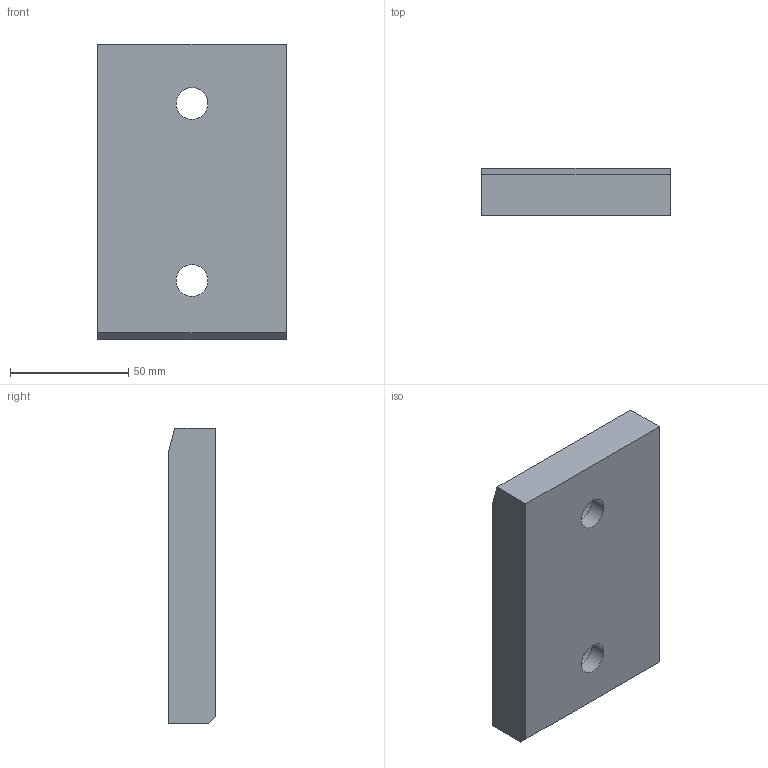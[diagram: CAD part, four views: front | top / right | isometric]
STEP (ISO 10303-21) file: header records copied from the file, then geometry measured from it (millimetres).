
FILE_DESCRIPTION (( 'STEP AP214' ), '1' );
FILE_NAME ('SW225-01-80x125.STEP', '2020-10-21T10:01:35', ( 'August' ), ( '' ), 'SwSTEP 2.0', 'SolidWorks 2018', '' );
FILE_SCHEMA (( 'AUTOMOTIVE_DESIGN' ));
Length unit declared in the file: millimetre
Products named in the file (1): SW225-01-80x125
Bounding box: 80 x 20 x 125 mm (x, y, z)
Volume: 188394.6 mm3; surface area: 29491.7 mm2
Topology: 1 solids, 1 shells, 19 faces, 45 edges, 30 vertices
Faces by surface type: plane 10, cylinder 9
Entity records: 613 total; most frequent: CARTESIAN_POINT 112, DIRECTION 101, ORIENTED_EDGE 90, EDGE_CURVE 45, AXIS2_PLACEMENT_3D 37, VERTEX_POINT 30, VECTOR 27, LINE 27
